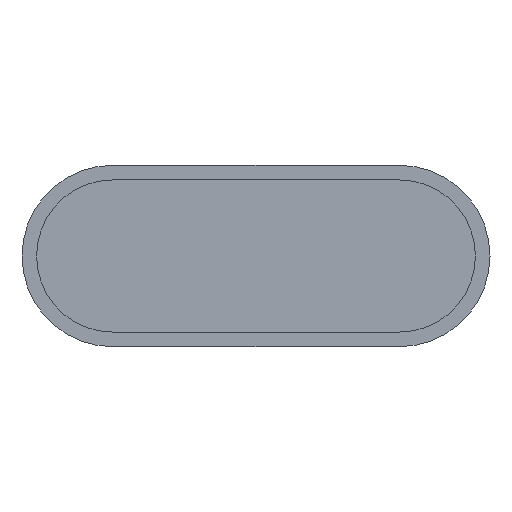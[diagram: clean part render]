
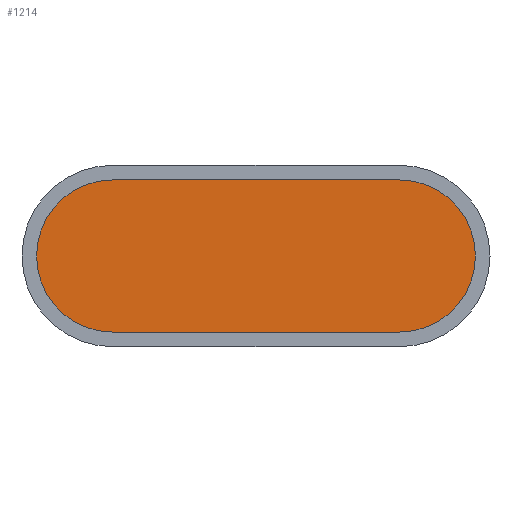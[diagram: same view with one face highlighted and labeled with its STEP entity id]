
A CAD part, front view. The second image highlights one B-rep face of the part: STEP entity #1214.
In plain terms, the highlighted planar face has unit normal (0, -1, 0).
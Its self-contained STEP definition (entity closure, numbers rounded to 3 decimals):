
#69 = PLANE ( 'NONE',  #2362 ) ;
#353 = EDGE_CURVE ( 'NONE', #1506, #2476, #2558, .T. ) ;
#437 = ORIENTED_EDGE ( 'NONE', *, *, #1263, .T. ) ;
#465 = DIRECTION ( 'NONE',  ( 0., 0., -1. ) ) ;
#607 = CARTESIAN_POINT ( 'NONE',  ( 24.5, -13., -13. ) ) ;
#680 = CARTESIAN_POINT ( 'NONE',  ( 24.5, -13., 0. ) ) ;
#691 = DIRECTION ( 'NONE',  ( -1., 0., 0. ) ) ;
#701 = EDGE_LOOP ( 'NONE', ( #2380, #437, #1998, #892 ) ) ;
#716 = VERTEX_POINT ( 'NONE', #1689 ) ;
#754 = VERTEX_POINT ( 'NONE', #1103 ) ;
#787 = CIRCLE ( 'NONE', #1127, 13. ) ;
#892 = ORIENTED_EDGE ( 'NONE', *, *, #353, .T. ) ;
#915 = DIRECTION ( 'NONE',  ( 0., -1., 0. ) ) ;
#1079 = DIRECTION ( 'NONE',  ( 0., -1., 0. ) ) ;
#1103 = CARTESIAN_POINT ( 'NONE',  ( -24.5, -13., 13. ) ) ;
#1127 = AXIS2_PLACEMENT_3D ( 'NONE', #1460, #915, #2352 ) ;
#1184 = CARTESIAN_POINT ( 'NONE',  ( 24.5, -13., 13. ) ) ;
#1214 = ADVANCED_FACE ( 'NONE', ( #2285 ), #69, .T. ) ;
#1263 = EDGE_CURVE ( 'NONE', #754, #716, #787, .T. ) ;
#1460 = CARTESIAN_POINT ( 'NONE',  ( -24.5, -13., 0. ) ) ;
#1506 = VERTEX_POINT ( 'NONE', #607 ) ;
#1615 = AXIS2_PLACEMENT_3D ( 'NONE', #680, #1079, #465 ) ;
#1681 = CARTESIAN_POINT ( 'NONE',  ( -24.5, -13., 0. ) ) ;
#1689 = CARTESIAN_POINT ( 'NONE',  ( -24.5, -13., -13. ) ) ;
#1738 = DIRECTION ( 'NONE',  ( 1., 0., 0. ) ) ;
#1753 = EDGE_CURVE ( 'NONE', #2476, #754, #2291, .T. ) ;
#1998 = ORIENTED_EDGE ( 'NONE', *, *, #2243, .T. ) ;
#2105 = VECTOR ( 'NONE', #1738, 1000. ) ;
#2106 = CARTESIAN_POINT ( 'NONE',  ( 24.5, -13., 13. ) ) ;
#2156 = CARTESIAN_POINT ( 'NONE',  ( -24.5, -13., -13. ) ) ;
#2243 = EDGE_CURVE ( 'NONE', #716, #1506, #2341, .T. ) ;
#2285 = FACE_OUTER_BOUND ( 'NONE', #701, .T. ) ;
#2291 = LINE ( 'NONE', #2106, #2627 ) ;
#2299 = DIRECTION ( 'NONE',  ( 0., -1., 0. ) ) ;
#2341 = LINE ( 'NONE', #2156, #2105 ) ;
#2352 = DIRECTION ( 'NONE',  ( 0., 0., -1. ) ) ;
#2362 = AXIS2_PLACEMENT_3D ( 'NONE', #1681, #2299, #2496 ) ;
#2380 = ORIENTED_EDGE ( 'NONE', *, *, #1753, .T. ) ;
#2476 = VERTEX_POINT ( 'NONE', #1184 ) ;
#2496 = DIRECTION ( 'NONE',  ( 0., 0., -1. ) ) ;
#2558 = CIRCLE ( 'NONE', #1615, 13. ) ;
#2627 = VECTOR ( 'NONE', #691, 1000. ) ;
